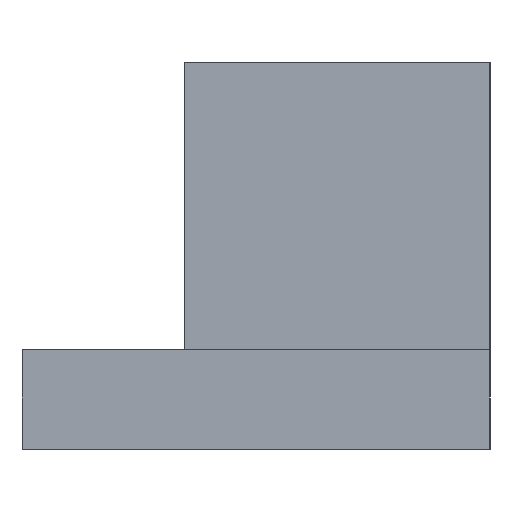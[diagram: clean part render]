
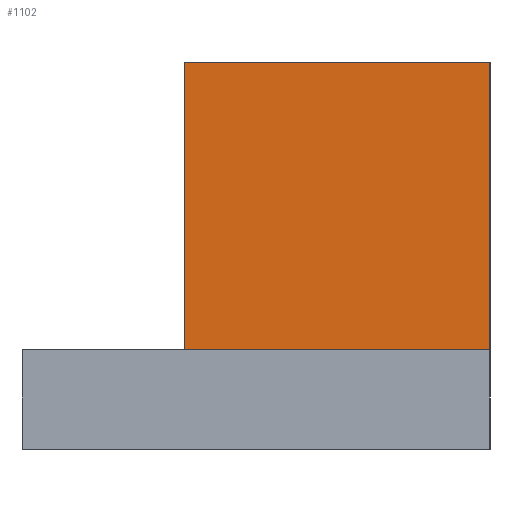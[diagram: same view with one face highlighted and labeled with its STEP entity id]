
A CAD part, left-side view. The second image highlights one B-rep face of the part: STEP entity #1102.
In plain terms, the highlighted planar face has unit normal (-1, 0, 0).
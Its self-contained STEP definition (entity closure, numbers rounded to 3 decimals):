
#44 = PLANE('',#45);
#45 = AXIS2_PLACEMENT_3D('',#46,#47,#48);
#46 = CARTESIAN_POINT('',(-10.75,-20.769,-1.2));
#47 = DIRECTION('',(0.,0.,1.));
#48 = DIRECTION('',(1.,0.,0.));
#71 = PLANE('',#72);
#72 = AXIS2_PLACEMENT_3D('',#73,#74,#75);
#73 = CARTESIAN_POINT('',(-26.75,-16.919,-5.));
#74 = DIRECTION('',(0.,1.,0.));
#75 = DIRECTION('',(0.,0.,1.));
#141 = VERTEX_POINT('',#142);
#142 = CARTESIAN_POINT('',(-8.75,-16.919,-1.2));
#161 = EDGE_CURVE('',#141,#162,#164,.T.);
#162 = VERTEX_POINT('',#163);
#163 = CARTESIAN_POINT('',(-8.75,-14.469,-1.2));
#164 = SURFACE_CURVE('',#165,(#169,#176),.PCURVE_S1.);
#165 = LINE('',#166,#167);
#166 = CARTESIAN_POINT('',(-8.75,-19.469,-1.2));
#167 = VECTOR('',#168,1.);
#168 = DIRECTION('',(0.,1.,0.));
#169 = PCURVE('',#44,#170);
#170 = DEFINITIONAL_REPRESENTATION('',(#171),#175);
#171 = LINE('',#172,#173);
#172 = CARTESIAN_POINT('',(2.,1.3));
#173 = VECTOR('',#174,1.);
#174 = DIRECTION('',(0.,1.));
#175 = ( GEOMETRIC_REPRESENTATION_CONTEXT(2) 
PARAMETRIC_REPRESENTATION_CONTEXT() REPRESENTATION_CONTEXT('2D SPACE',''
  ) );
#176 = PCURVE('',#177,#182);
#177 = PLANE('',#178);
#178 = AXIS2_PLACEMENT_3D('',#179,#180,#181);
#179 = CARTESIAN_POINT('',(-8.75,-19.469,-1.2));
#180 = DIRECTION('',(1.,0.,0.));
#181 = DIRECTION('',(0.,0.,1.));
#182 = DEFINITIONAL_REPRESENTATION('',(#183),#187);
#183 = LINE('',#184,#185);
#184 = CARTESIAN_POINT('',(0.,0.));
#185 = VECTOR('',#186,1.);
#186 = DIRECTION('',(0.,-1.));
#187 = ( GEOMETRIC_REPRESENTATION_CONTEXT(2) 
PARAMETRIC_REPRESENTATION_CONTEXT() REPRESENTATION_CONTEXT('2D SPACE',''
  ) );
#205 = PLANE('',#206);
#206 = AXIS2_PLACEMENT_3D('',#207,#208,#209);
#207 = CARTESIAN_POINT('',(-8.75,-14.469,-1.2));
#208 = DIRECTION('',(0.,1.,0.));
#209 = DIRECTION('',(0.,0.,1.));
#535 = EDGE_CURVE('',#141,#536,#538,.T.);
#536 = VERTEX_POINT('',#537);
#537 = CARTESIAN_POINT('',(-8.75,-16.919,1.1));
#538 = SURFACE_CURVE('',#539,(#543,#549),.PCURVE_S1.);
#539 = LINE('',#540,#541);
#540 = CARTESIAN_POINT('',(-8.75,-16.919,-3.1));
#541 = VECTOR('',#542,1.);
#542 = DIRECTION('',(0.,0.,1.));
#543 = PCURVE('',#71,#544);
#544 = DEFINITIONAL_REPRESENTATION('',(#545),#548);
#545 = B_SPLINE_CURVE_WITH_KNOTS('',1,(#546,#547),.UNSPECIFIED.,.F.,.F.,
  (2,2),(1.9,4.2),.PIECEWISE_BEZIER_KNOTS.);
#546 = CARTESIAN_POINT('',(3.8,18.));
#547 = CARTESIAN_POINT('',(6.1,18.));
#548 = ( GEOMETRIC_REPRESENTATION_CONTEXT(2) 
PARAMETRIC_REPRESENTATION_CONTEXT() REPRESENTATION_CONTEXT('2D SPACE',''
  ) );
#549 = PCURVE('',#177,#550);
#550 = DEFINITIONAL_REPRESENTATION('',(#551),#554);
#551 = B_SPLINE_CURVE_WITH_KNOTS('',1,(#552,#553),.UNSPECIFIED.,.F.,.F.,
  (2,2),(1.9,4.2),.PIECEWISE_BEZIER_KNOTS.);
#552 = CARTESIAN_POINT('',(0.,-2.55));
#553 = CARTESIAN_POINT('',(2.3,-2.55));
#554 = ( GEOMETRIC_REPRESENTATION_CONTEXT(2) 
PARAMETRIC_REPRESENTATION_CONTEXT() REPRESENTATION_CONTEXT('2D SPACE',''
  ) );
#571 = PLANE('',#572);
#572 = AXIS2_PLACEMENT_3D('',#573,#574,#575);
#573 = CARTESIAN_POINT('',(-8.75,-19.469,1.1));
#574 = DIRECTION('',(0.,0.,1.));
#575 = DIRECTION('',(1.,0.,0.));
#1058 = EDGE_CURVE('',#162,#1059,#1061,.T.);
#1059 = VERTEX_POINT('',#1060);
#1060 = CARTESIAN_POINT('',(-8.75,-14.469,1.1));
#1061 = SURFACE_CURVE('',#1062,(#1066,#1073),.PCURVE_S1.);
#1062 = LINE('',#1063,#1064);
#1063 = CARTESIAN_POINT('',(-8.75,-14.469,-1.2));
#1064 = VECTOR('',#1065,1.);
#1065 = DIRECTION('',(0.,0.,1.));
#1066 = PCURVE('',#205,#1067);
#1067 = DEFINITIONAL_REPRESENTATION('',(#1068),#1072);
#1068 = LINE('',#1069,#1070);
#1069 = CARTESIAN_POINT('',(0.,0.));
#1070 = VECTOR('',#1071,1.);
#1071 = DIRECTION('',(1.,0.));
#1072 = ( GEOMETRIC_REPRESENTATION_CONTEXT(2) 
PARAMETRIC_REPRESENTATION_CONTEXT() REPRESENTATION_CONTEXT('2D SPACE',''
  ) );
#1073 = PCURVE('',#177,#1074);
#1074 = DEFINITIONAL_REPRESENTATION('',(#1075),#1079);
#1075 = LINE('',#1076,#1077);
#1076 = CARTESIAN_POINT('',(0.,-5.));
#1077 = VECTOR('',#1078,1.);
#1078 = DIRECTION('',(1.,0.));
#1079 = ( GEOMETRIC_REPRESENTATION_CONTEXT(2) 
PARAMETRIC_REPRESENTATION_CONTEXT() REPRESENTATION_CONTEXT('2D SPACE',''
  ) );
#1102 = ADVANCED_FACE('',(#1103),#177,.F.);
#1103 = FACE_BOUND('',#1104,.F.);
#1104 = EDGE_LOOP('',(#1105,#1126,#1127,#1128));
#1105 = ORIENTED_EDGE('',*,*,#1106,.F.);
#1106 = EDGE_CURVE('',#536,#1059,#1107,.T.);
#1107 = SURFACE_CURVE('',#1108,(#1112,#1119),.PCURVE_S1.);
#1108 = LINE('',#1109,#1110);
#1109 = CARTESIAN_POINT('',(-8.75,-19.469,1.1));
#1110 = VECTOR('',#1111,1.);
#1111 = DIRECTION('',(0.,1.,0.));
#1112 = PCURVE('',#177,#1113);
#1113 = DEFINITIONAL_REPRESENTATION('',(#1114),#1118);
#1114 = LINE('',#1115,#1116);
#1115 = CARTESIAN_POINT('',(2.3,0.));
#1116 = VECTOR('',#1117,1.);
#1117 = DIRECTION('',(0.,-1.));
#1118 = ( GEOMETRIC_REPRESENTATION_CONTEXT(2) 
PARAMETRIC_REPRESENTATION_CONTEXT() REPRESENTATION_CONTEXT('2D SPACE',''
  ) );
#1119 = PCURVE('',#571,#1120);
#1120 = DEFINITIONAL_REPRESENTATION('',(#1121),#1125);
#1121 = LINE('',#1122,#1123);
#1122 = CARTESIAN_POINT('',(0.,0.));
#1123 = VECTOR('',#1124,1.);
#1124 = DIRECTION('',(0.,1.));
#1125 = ( GEOMETRIC_REPRESENTATION_CONTEXT(2) 
PARAMETRIC_REPRESENTATION_CONTEXT() REPRESENTATION_CONTEXT('2D SPACE',''
  ) );
#1126 = ORIENTED_EDGE('',*,*,#535,.F.);
#1127 = ORIENTED_EDGE('',*,*,#161,.T.);
#1128 = ORIENTED_EDGE('',*,*,#1058,.T.);
